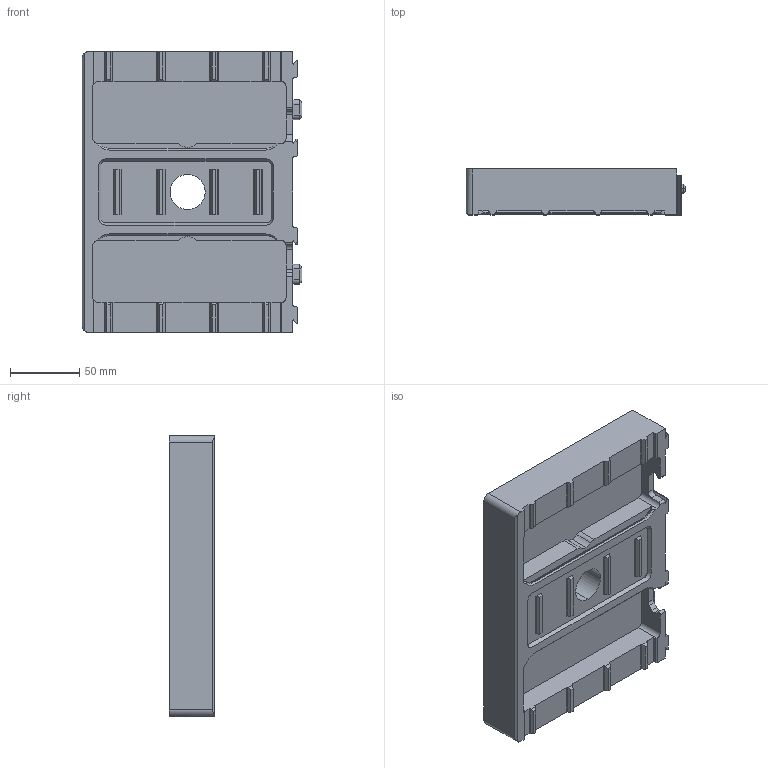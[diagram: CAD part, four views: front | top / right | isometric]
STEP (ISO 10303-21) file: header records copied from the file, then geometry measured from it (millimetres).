
FILE_DESCRIPTION (( 'STEP AP203' ), '1' );
FILE_NAME ('5010283_REV-A.STEP', '2026-01-26T18:46:23', ( '' ), ( '' ), 'SwSTEP 2.0', 'SolidWorks 2019', '' );
FILE_SCHEMA (( 'CONFIG_CONTROL_DESIGN' ));
Length unit declared in the file: inch
Products named in the file (1): 5010283_REV-A
Bounding box: 158.75 x 33.02 x 203.2 mm (x, y, z)
Volume: 736395.8 mm3; surface area: 102439.5 mm2
Topology: 1 solids, 1 shells, 248 faces, 709 edges, 470 vertices
Faces by surface type: plane 148, cylinder 80, cone 14, torus 4, bspline 2
Entity records: 9294 total; most frequent: CARTESIAN_POINT 2618, ORIENTED_EDGE 1418, DIRECTION 1359, EDGE_CURVE 709, LINE 493, VECTOR 493, VERTEX_POINT 470, AXIS2_PLACEMENT_3D 433
